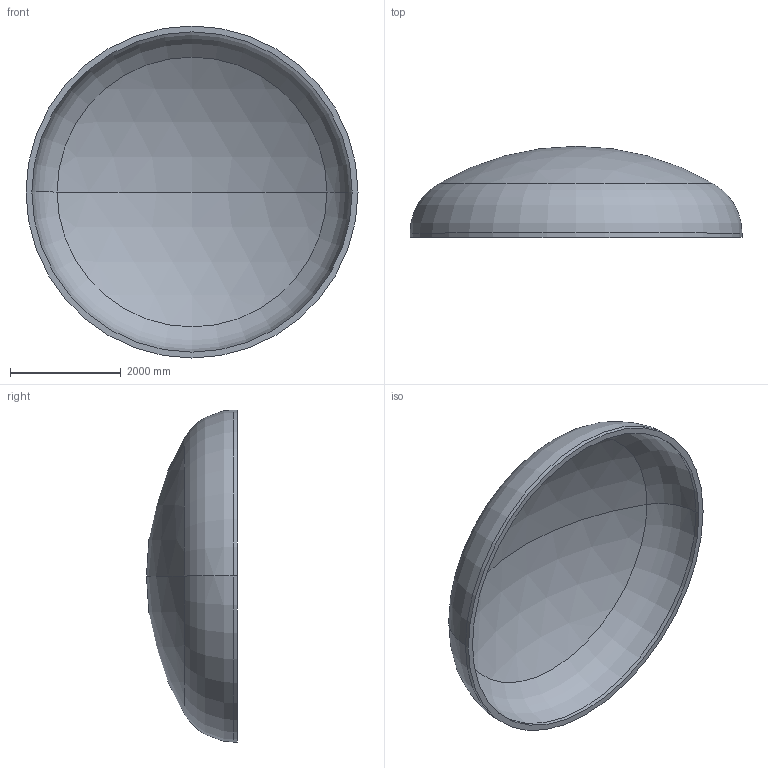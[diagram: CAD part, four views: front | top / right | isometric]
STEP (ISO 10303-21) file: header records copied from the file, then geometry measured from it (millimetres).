
FILE_DESCRIPTION (( 'STEP AP203' ), '1' );
FILE_NAME ('DIN 28013 Korbbogenform_-_Boden DIN 28013 - 6000 x 75 - I - s=106.step', '2016-07-04T10:38:58', ( '' ), ( '' ), 'SwSTEP 2.0', 'SolidWorks 2013', '' );
FILE_SCHEMA (( 'CONFIG_CONTROL_DESIGN' ));
Length unit declared in the file: millimetre
Products named in the file (1): DIN 28013 Korbbogenform_-_Boden DIN 28013 - 6000 x 75 - I - s=106
Bounding box: 6000 x 1643.54 x 6000 mm (x, y, z)
Volume: 4203411063.2 mm3; surface area: 81295899.6 mm2
Topology: 1 solids, 1 shells, 13 faces, 24 edges, 14 vertices
Faces by surface type: torus 4, cylinder 4, sphere 4, plane 1
Entity records: 407 total; most frequent: DIRECTION 72, CARTESIAN_POINT 52, ORIENTED_EDGE 48, AXIS2_PLACEMENT_3D 34, EDGE_CURVE 24, CIRCLE 20, VERTEX_POINT 14, EDGE_LOOP 14
